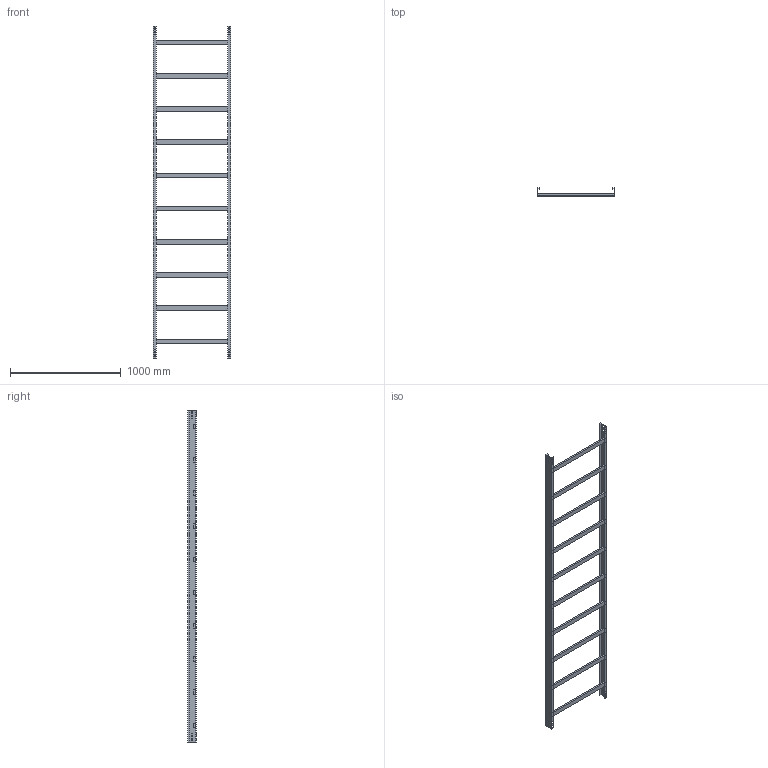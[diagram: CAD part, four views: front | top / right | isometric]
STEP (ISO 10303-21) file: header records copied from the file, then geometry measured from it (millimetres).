
FILE_DESCRIPTION (( 'STEP AP214' ), '1' );
FILE_NAME ('01B3C700.step', '2025-02-21T16:01:02', ( '' ), ( '' ), 'SwSTEP 2.0', 'SolidWorks 2023', '' );
FILE_SCHEMA (( 'AUTOMOTIVE_DESIGN' ));
Length unit declared in the file: millimetre
Products named in the file (3): 01B3C700; TRAVERSINO_700; LONGH.H75
Assembly tree (12 placements, depth 2):
  01B3C700
    LONGH.H75  x2
    TRAVERSINO_700  x10
Bounding box: 700 x 75 x 3000 mm (x, y, z)
Volume: 7984672 mm3; surface area: 2272856 mm2
Topology: 12 solids, 12 shells, 144 faces, 360 edges, 240 vertices
Faces by surface type: plane 144
Entity records: 1696 total; most frequent: CARTESIAN_POINT 283, ORIENTED_EDGE 264, DIRECTION 258, LINE 132, EDGE_CURVE 132, VECTOR 132, VERTEX_POINT 88, EDGE_LOOP 64
